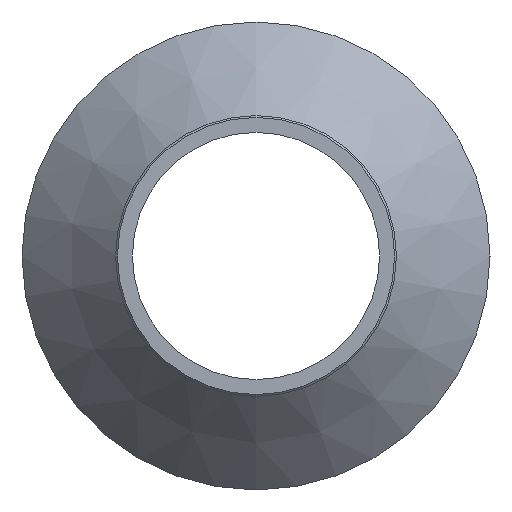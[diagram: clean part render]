
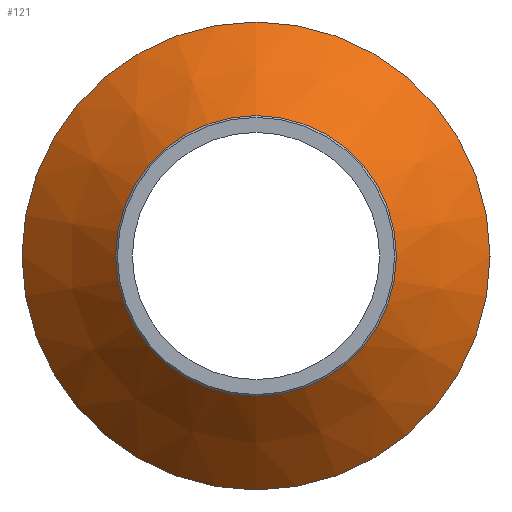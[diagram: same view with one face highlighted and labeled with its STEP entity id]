
A CAD part, left-side view. The second image highlights one B-rep face of the part: STEP entity #121.
In plain terms, the highlighted conical face has half-angle 43.877 degrees and reference radius 62.5 mm.
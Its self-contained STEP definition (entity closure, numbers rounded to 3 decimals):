
#22=CONICAL_SURFACE('',#146,62.5,0.766);
#28=ORIENTED_EDGE('',*,*,#48,.F.);
#29=ORIENTED_EDGE('',*,*,#47,.T.);
#47=EDGE_CURVE('',#57,#57,#67,.T.);
#48=EDGE_CURVE('',#58,#58,#68,.T.);
#57=VERTEX_POINT('',#210);
#58=VERTEX_POINT('',#213);
#67=CIRCLE('',#145,62.5);
#68=CIRCLE('',#147,37.5);
#78=EDGE_LOOP('',(#28));
#79=EDGE_LOOP('',(#29));
#98=FACE_BOUND('',#78,.T.);
#99=FACE_BOUND('',#79,.T.);
#121=ADVANCED_FACE('',(#98,#99),#22,.T.);
#145=AXIS2_PLACEMENT_3D('',#209,#169,#170);
#146=AXIS2_PLACEMENT_3D('',#211,#171,#172);
#147=AXIS2_PLACEMENT_3D('',#212,#173,#174);
#169=DIRECTION('',(-1.,0.,0.));
#170=DIRECTION('',(0.,0.,1.));
#171=DIRECTION('',(1.,0.,0.));
#172=DIRECTION('',(0.,0.,-1.));
#173=DIRECTION('',(-1.,0.,0.));
#174=DIRECTION('',(0.,0.,1.));
#209=CARTESIAN_POINT('',(13.,0.,0.));
#210=CARTESIAN_POINT('',(13.,0.,62.5));
#211=CARTESIAN_POINT('',(13.,0.,0.));
#212=CARTESIAN_POINT('',(-13.,0.,0.));
#213=CARTESIAN_POINT('',(-13.,0.,37.5));
